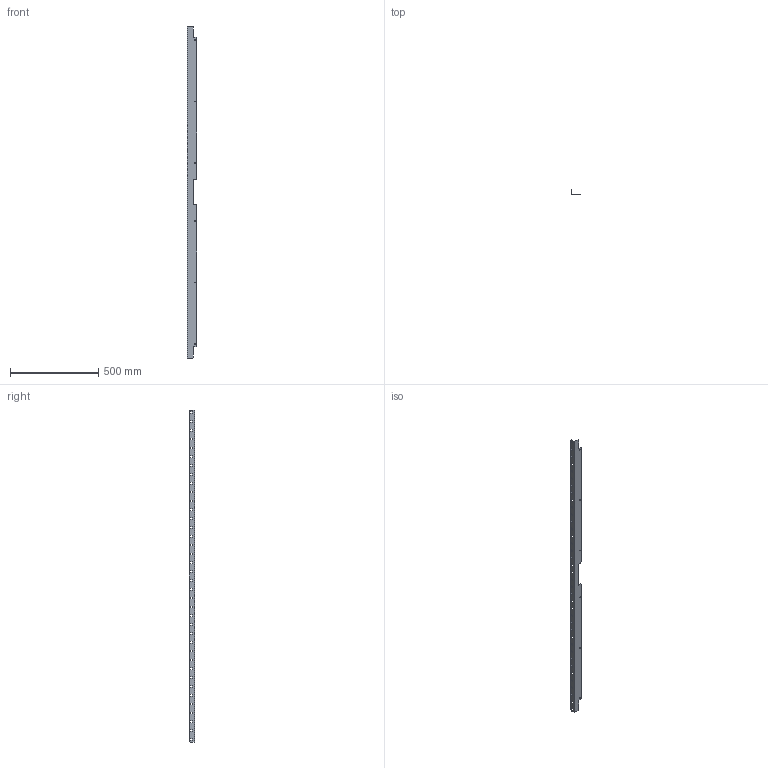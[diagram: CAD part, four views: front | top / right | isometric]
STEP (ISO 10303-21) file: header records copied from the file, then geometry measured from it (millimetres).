
FILE_DESCRIPTION (( 'STEP AP203' ), '1' );
FILE_NAME ('Äåðæàòåëü ïëàñòðîíîâ 2000 ìì.STEP', '2025-02-19T15:31:22', ( '' ), ( '' ), 'SwSTEP 2.0', 'SolidWorks 2021', '' );
FILE_SCHEMA (( 'CONFIG_CONTROL_DESIGN' ));
Length unit declared in the file: millimetre
Products named in the file (1): Äåðæàòåëü ïëàñòðîíîâ 2000 ìì
Bounding box: 56 x 28.5 x 1880 mm (x, y, z)
Volume: 146307.6 mm3; surface area: 298109.1 mm2
Topology: 1 solids, 1 shells, 194 faces, 568 edges, 376 vertices
Faces by surface type: plane 180, cylinder 14
Entity records: 6569 total; most frequent: CARTESIAN_POINT 1139, ORIENTED_EDGE 1136, DIRECTION 986, EDGE_CURVE 568, LINE 540, VECTOR 540, VERTEX_POINT 376, EDGE_LOOP 282
